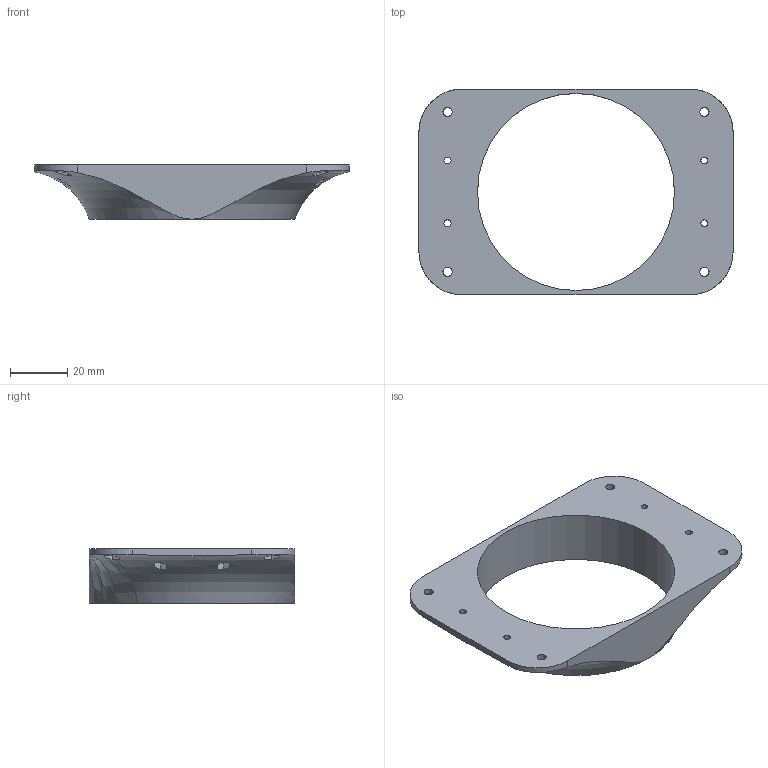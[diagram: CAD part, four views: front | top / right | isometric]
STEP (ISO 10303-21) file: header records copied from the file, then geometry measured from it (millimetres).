
FILE_DESCRIPTION(/* description */ (''),/* implementation_level */ '2;1');
FILE_NAME(/* name */ 'Acuator Host-Join-1.step',/* time_stamp */ '2026-09-18T19:38:18+10:00',/* author */ (''),/* organization */ (''),/* preprocessor_version */ 'ST-DEVELOPER v20.2',/* originating_system */ 'Autodesk Translation Framework v15.15.0.0',/* authorisation */ '');
FILE_SCHEMA (('AUTOMOTIVE_DESIGN { 1 0 10303 214 3 1 1 }'));
Length unit declared in the file: millimetre
Products named in the file (1): Acuator Host-Join
Bounding box: 110 x 72 x 19 mm (x, y, z)
Volume: 32083.2 mm3; surface area: 15833.9 mm2
Topology: 1 solids, 1 shells, 87 faces, 230 edges, 151 vertices
Faces by surface type: plane 66, cylinder 16, bspline 3, torus 2
Full cylindrical faces by diameter (mm): 2.4 x2, 3.2 x4, 69 x1
Entity records: 2992 total; most frequent: CARTESIAN_POINT 870, ORIENTED_EDGE 458, DIRECTION 380, EDGE_CURVE 229, VERTEX_POINT 151, AXIS2_PLACEMENT_3D 129, LINE 122, VECTOR 122
